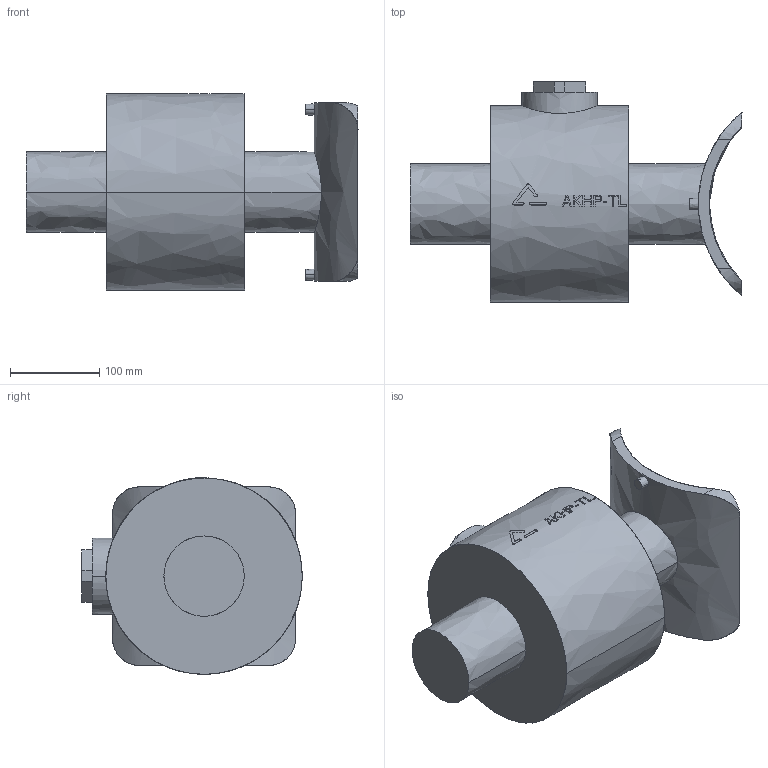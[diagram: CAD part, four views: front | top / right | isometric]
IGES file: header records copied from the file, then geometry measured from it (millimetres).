
Start section:  PTC IGES file: akhp-tl_d250-d315_d90.igs
Global section: file name: akhp-tl_d250-d315_d90.igs; native system: Pro/ENGINEER by Parametric Technology Corporation; preprocessor: 2006140; author: muellerc; organization: Unknown; date: 20060810.151612; units: millimetre
Bounding box: 371.83 x 247 x 220.3 mm (x, y, z)
Surface area: 323803.3 mm2 (no closed solid volume)
Topology: 0 solids, 0 shells, 144 faces, 789 edges, 802 vertices
Faces by surface type: bspline 144
